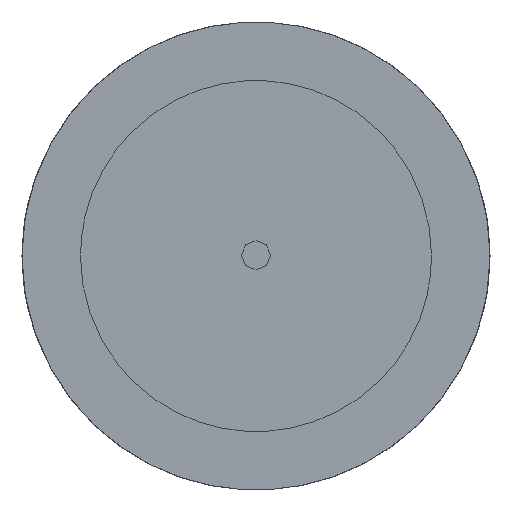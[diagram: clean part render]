
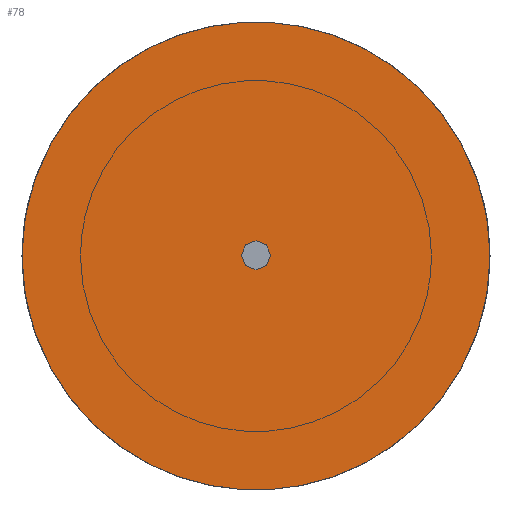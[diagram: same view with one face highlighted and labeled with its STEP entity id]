
A CAD part, top view. The second image highlights one B-rep face of the part: STEP entity #78.
In plain terms, the highlighted planar face has unit normal (0, 0, 1).
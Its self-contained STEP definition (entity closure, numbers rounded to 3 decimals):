
#78=ADVANCED_FACE('',(#123),#678,.T.);
#123=FACE_OUTER_BOUND('',#169,.T.);
#169=EDGE_LOOP('',(#227,#228));
#227=ORIENTED_EDGE('',*,*,#410,.F.);
#228=ORIENTED_EDGE('',*,*,#411,.F.);
#410=EDGE_CURVE('',#612,#613,#555,.T.);
#411=EDGE_CURVE('',#613,#612,#556,.T.);
#555=(
BOUNDED_CURVE()
B_SPLINE_CURVE(2,(#866,#867,#868,#869,#870),.UNSPECIFIED.,.F.,.F.)
B_SPLINE_CURVE_WITH_KNOTS((3,2,3),(0.,12.566,25.133),
 .UNSPECIFIED.)
CURVE()
GEOMETRIC_REPRESENTATION_ITEM()
RATIONAL_B_SPLINE_CURVE((1.,0.707,1.,0.707,1.))
REPRESENTATION_ITEM('')
);
#556=(
BOUNDED_CURVE()
B_SPLINE_CURVE(2,(#871,#872,#873,#874,#875),.UNSPECIFIED.,.F.,.F.)
B_SPLINE_CURVE_WITH_KNOTS((3,2,3),(25.133,37.699,50.265),
 .UNSPECIFIED.)
CURVE()
GEOMETRIC_REPRESENTATION_ITEM()
RATIONAL_B_SPLINE_CURVE((1.,0.707,1.,0.707,1.))
REPRESENTATION_ITEM('')
);
#612=VERTEX_POINT('',#856);
#613=VERTEX_POINT('',#857);
#678=PLANE('',#743);
#743=AXIS2_PLACEMENT_3D('',#814,#768,$);
#768=DIRECTION('',(0.,0.,1.));
#814=CARTESIAN_POINT('',(-10.326,2107.809,917.103));
#856=CARTESIAN_POINT('',(-8.116,2118.019,917.103));
#857=CARTESIAN_POINT('',(7.884,2118.019,917.103));
#866=CARTESIAN_POINT('',(-8.116,2118.019,917.103));
#867=CARTESIAN_POINT('',(-8.116,2126.019,917.103));
#868=CARTESIAN_POINT('',(-0.116,2126.019,917.103));
#869=CARTESIAN_POINT('',(7.884,2126.019,917.103));
#870=CARTESIAN_POINT('',(7.884,2118.019,917.103));
#871=CARTESIAN_POINT('',(7.884,2118.019,917.103));
#872=CARTESIAN_POINT('',(7.884,2110.019,917.103));
#873=CARTESIAN_POINT('',(-0.116,2110.019,917.103));
#874=CARTESIAN_POINT('',(-8.116,2110.019,917.103));
#875=CARTESIAN_POINT('',(-8.116,2118.019,917.103));
